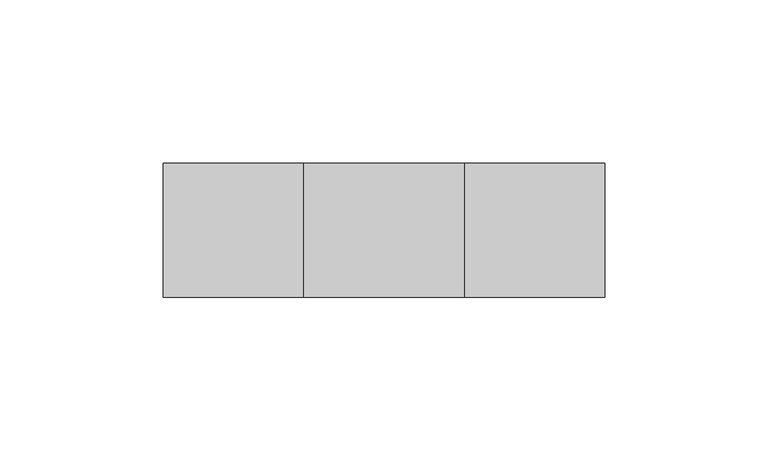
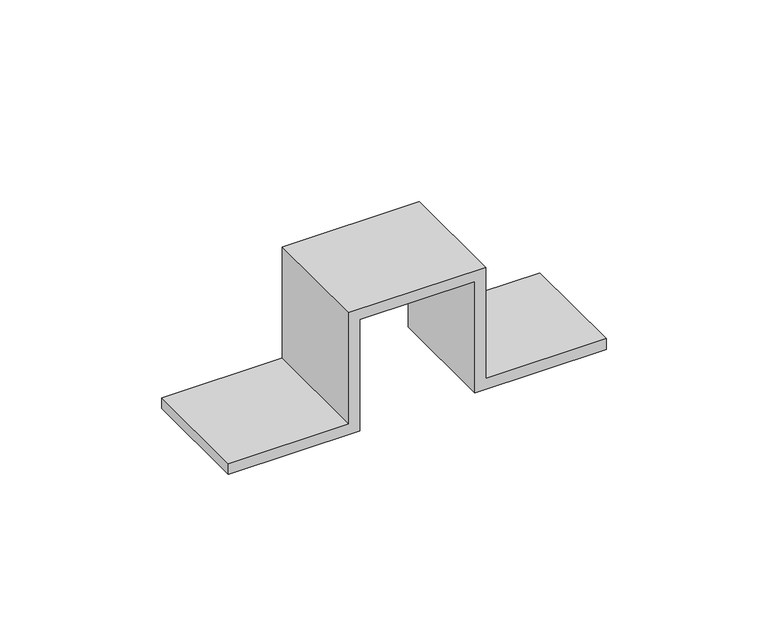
"""IFC4 building model written with IfcOpenShell, lengths in millimetres: proxy geometry, 4182E_Accessory-Basorfix : Basorfix 4182E GC70."""

from ifc_helpers import new_model, si_unit, frame, origin, place, context, project, spatial, polyline, outline, extrude, source, transform, mapped, element, save


def generic_models_02c20962(model_context):
    return source(origin(), model_context, "Body", "SweptSolid", [
        extrude(outline(polyline([(0.0, 20.5060923), (0.0, 67.5060923), (4.0, 67.5060923), (4.0, 24.5060923), (46.0, 24.5060923), (46.0, -24.5060923), (4.0, -24.5060923), (4.0, -67.5060923), (0.0, -67.5060923), (0.0, -20.5060923), (42.0, -20.5060923), (42.0, 20.5060923), (0.0, 20.5060923)])), frame((0.0, -20.5, 0.0), z_axis=(0.0, 1.0, 0.0), x_axis=(0.0, 0.0, 1.0)), (0.0, 0.0, 1.0), 41.0),
    ])


if __name__ == "__main__":
    model = new_model("IFC4")
    model_context = context("Model", 3, world=origin())
    ifc_project = project(units=[si_unit("LENGTHUNIT", "METRE", prefix="MILLI")], contexts=[model_context])
    site = spatial("IfcSite", under=ifc_project)
    building = spatial("IfcBuilding", under=site)
    placement = place(None, origin())
    generic_models_shape = generic_models_02c20962(model_context)
    element("IfcBuildingElementProxy", 1, Name="4182E_Accessory-Basorfix : Basorfix 4182E GC70", ObjectType="4182E_Accessory-Basorfix : Basorfix 4182E GC70", at=placement, inside=building, context=model_context, shape_type="MappedRepresentation", body=[
        mapped(generic_models_shape, transform((0.0, 0.0, 0.0), x_axis=(1.0, 0.0, 0.0), y_axis=(0.0, 1.0, 0.0), z_axis=(0.0, 0.0, 1.0))),
    ])
    save(model, "model.ifc")
